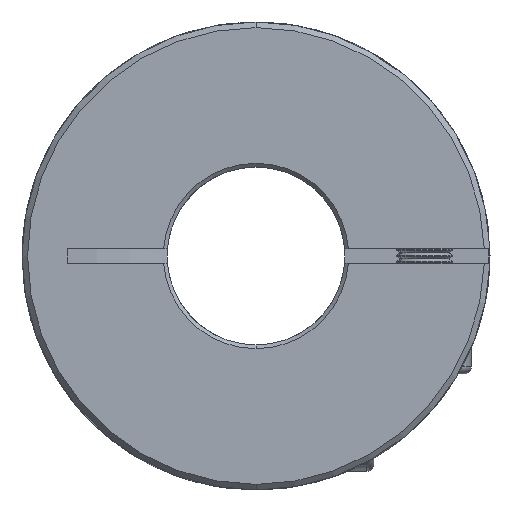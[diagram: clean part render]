
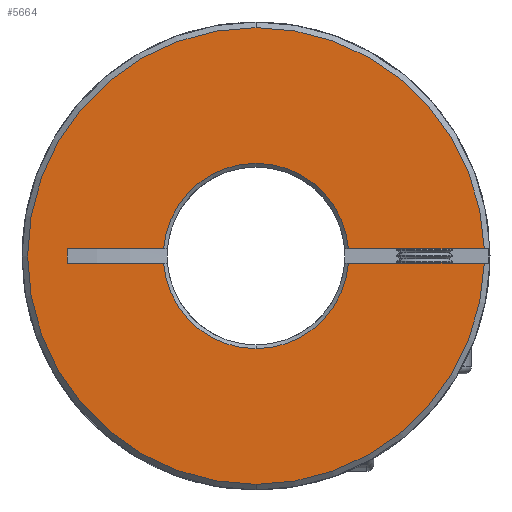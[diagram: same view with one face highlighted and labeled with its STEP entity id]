
A CAD part, front view. The second image highlights one B-rep face of the part: STEP entity #5664.
In plain terms, the highlighted planar face has unit normal (0, -1, 0).
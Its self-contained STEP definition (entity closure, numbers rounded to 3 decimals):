
#96 = AXIS2_PLACEMENT_3D ( 'NONE', #9291, #14341, #10436 ) ;
#364 = CARTESIAN_POINT ( 'NONE',  ( 0., 0., 0. ) ) ;
#377 = ORIENTED_EDGE ( 'NONE', *, *, #8718, .T. ) ;
#431 = VERTEX_POINT ( 'NONE', #3305 ) ;
#693 = CIRCLE ( 'NONE', #9411, 9.9 ) ;
#1004 = PLANE ( 'NONE',  #96 ) ;
#1112 = VECTOR ( 'NONE', #13986, 1000. ) ;
#1168 = LINE ( 'NONE', #10890, #11905 ) ;
#1511 = ORIENTED_EDGE ( 'NONE', *, *, #6736, .T. ) ;
#1673 = EDGE_LOOP ( 'NONE', ( #4040, #1838, #12985, #11024, #12945, #5753, #9346, #14477, #1511, #5851, #377 ) ) ;
#1838 = ORIENTED_EDGE ( 'NONE', *, *, #8153, .T. ) ;
#1932 = EDGE_CURVE ( 'NONE', #3063, #15605, #15755, .T. ) ;
#2215 = EDGE_CURVE ( 'NONE', #8219, #4109, #9160, .T. ) ;
#3063 = VERTEX_POINT ( 'NONE', #8149 ) ;
#3292 = VERTEX_POINT ( 'NONE', #16828 ) ;
#3305 = CARTESIAN_POINT ( 'NONE',  ( 0., 0., -9.9 ) ) ;
#3370 = CARTESIAN_POINT ( 'NONE',  ( 0., 0., -24.4 ) ) ;
#3385 = CIRCLE ( 'NONE', #6012, 24.4 ) ;
#3420 = CARTESIAN_POINT ( 'NONE',  ( -50., 0., 0.75 ) ) ;
#3637 = CARTESIAN_POINT ( 'NONE',  ( 0., 0., 0. ) ) ;
#3839 = DIRECTION ( 'NONE',  ( 0., 0., 1. ) ) ;
#4040 = ORIENTED_EDGE ( 'NONE', *, *, #2215, .F. ) ;
#4109 = VERTEX_POINT ( 'NONE', #15584 ) ;
#4224 = CARTESIAN_POINT ( 'NONE',  ( 0., 0., 0. ) ) ;
#4338 = CARTESIAN_POINT ( 'NONE',  ( 9.872, 0., -0.75 ) ) ;
#4392 = EDGE_CURVE ( 'NONE', #3292, #16297, #1168, .T. ) ;
#4528 = CARTESIAN_POINT ( 'NONE',  ( 9.872, 0., 0.75 ) ) ;
#4701 = VECTOR ( 'NONE', #10985, 1000. ) ;
#4753 = FACE_OUTER_BOUND ( 'NONE', #1673, .T. ) ;
#4842 = DIRECTION ( 'NONE',  ( 0., 0., 1. ) ) ;
#4915 = LINE ( 'NONE', #15452, #9171 ) ;
#4965 = VERTEX_POINT ( 'NONE', #4528 ) ;
#5154 = DIRECTION ( 'NONE',  ( 0., 0., 1. ) ) ;
#5514 = CARTESIAN_POINT ( 'NONE',  ( 0., 0., 0. ) ) ;
#5664 = ADVANCED_FACE ( 'NONE', ( #4753 ), #1004, .F. ) ;
#5745 = CARTESIAN_POINT ( 'NONE',  ( -9.872, 0., 0.75 ) ) ;
#5753 = ORIENTED_EDGE ( 'NONE', *, *, #1932, .T. ) ;
#5851 = ORIENTED_EDGE ( 'NONE', *, *, #8436, .T. ) ;
#5889 = VERTEX_POINT ( 'NONE', #8923 ) ;
#6012 = AXIS2_PLACEMENT_3D ( 'NONE', #11235, #11118, #7256 ) ;
#6014 = EDGE_CURVE ( 'NONE', #15605, #4965, #693, .T. ) ;
#6736 = EDGE_CURVE ( 'NONE', #16615, #5889, #9791, .T. ) ;
#7256 = DIRECTION ( 'NONE',  ( 0., 0., 1. ) ) ;
#8149 = CARTESIAN_POINT ( 'NONE',  ( -20.149, 0., 0.75 ) ) ;
#8153 = EDGE_CURVE ( 'NONE', #8219, #431, #8306, .T. ) ;
#8219 = VERTEX_POINT ( 'NONE', #4338 ) ;
#8306 = CIRCLE ( 'NONE', #9430, 9.9 ) ;
#8436 = EDGE_CURVE ( 'NONE', #5889, #12622, #13684, .T. ) ;
#8510 = CARTESIAN_POINT ( 'NONE',  ( 24.388, 0., 0.75 ) ) ;
#8718 = EDGE_CURVE ( 'NONE', #12622, #4109, #3385, .T. ) ;
#8923 = CARTESIAN_POINT ( 'NONE',  ( 0., 0., 24.4 ) ) ;
#9092 = CARTESIAN_POINT ( 'NONE',  ( -50., 0., 0.75 ) ) ;
#9094 = VECTOR ( 'NONE', #14594, 1000. ) ;
#9160 = LINE ( 'NONE', #12300, #4701 ) ;
#9171 = VECTOR ( 'NONE', #4842, 1000. ) ;
#9291 = CARTESIAN_POINT ( 'NONE',  ( -50., 0., 32.858 ) ) ;
#9341 = DIRECTION ( 'NONE',  ( 0., -1., 0. ) ) ;
#9346 = ORIENTED_EDGE ( 'NONE', *, *, #6014, .T. ) ;
#9394 = DIRECTION ( 'NONE',  ( 0., 0., 1. ) ) ;
#9411 = AXIS2_PLACEMENT_3D ( 'NONE', #3637, #11685, #5154 ) ;
#9430 = AXIS2_PLACEMENT_3D ( 'NONE', #4224, #16364, #10812 ) ;
#9532 = AXIS2_PLACEMENT_3D ( 'NONE', #364, #13822, #15297 ) ;
#9791 = CIRCLE ( 'NONE', #16223, 24.4 ) ;
#10436 = DIRECTION ( 'NONE',  ( 0., 0., 1. ) ) ;
#10812 = DIRECTION ( 'NONE',  ( 0., 0., 1. ) ) ;
#10890 = CARTESIAN_POINT ( 'NONE',  ( -50., 0., -0.75 ) ) ;
#10985 = DIRECTION ( 'NONE',  ( 1., 0., 0. ) ) ;
#11024 = ORIENTED_EDGE ( 'NONE', *, *, #4392, .F. ) ;
#11118 = DIRECTION ( 'NONE',  ( 0., -1., 0. ) ) ;
#11201 = AXIS2_PLACEMENT_3D ( 'NONE', #5514, #9341, #3839 ) ;
#11235 = CARTESIAN_POINT ( 'NONE',  ( 0., 0., 0. ) ) ;
#11685 = DIRECTION ( 'NONE',  ( 0., 1., 0. ) ) ;
#11905 = VECTOR ( 'NONE', #15270, 1000. ) ;
#12212 = CARTESIAN_POINT ( 'NONE',  ( -9.872, 0., -0.75 ) ) ;
#12300 = CARTESIAN_POINT ( 'NONE',  ( -50., 0., -0.75 ) ) ;
#12622 = VERTEX_POINT ( 'NONE', #3370 ) ;
#12852 = CIRCLE ( 'NONE', #9532, 9.9 ) ;
#12945 = ORIENTED_EDGE ( 'NONE', *, *, #14465, .T. ) ;
#12985 = ORIENTED_EDGE ( 'NONE', *, *, #15789, .T. ) ;
#13684 = CIRCLE ( 'NONE', #11201, 24.4 ) ;
#13822 = DIRECTION ( 'NONE',  ( 0., 1., 0. ) ) ;
#13986 = DIRECTION ( 'NONE',  ( 1., 0., 0. ) ) ;
#14146 = LINE ( 'NONE', #3420, #1112 ) ;
#14341 = DIRECTION ( 'NONE',  ( 0., 1., 0. ) ) ;
#14465 = EDGE_CURVE ( 'NONE', #3292, #3063, #4915, .T. ) ;
#14476 = EDGE_CURVE ( 'NONE', #4965, #16615, #14146, .T. ) ;
#14477 = ORIENTED_EDGE ( 'NONE', *, *, #14476, .T. ) ;
#14594 = DIRECTION ( 'NONE',  ( 1., 0., 0. ) ) ;
#14789 = DIRECTION ( 'NONE',  ( 0., -1., 0. ) ) ;
#15270 = DIRECTION ( 'NONE',  ( 1., 0., 0. ) ) ;
#15297 = DIRECTION ( 'NONE',  ( 0., 0., 1. ) ) ;
#15452 = CARTESIAN_POINT ( 'NONE',  ( -20.149, 0., -0.75 ) ) ;
#15584 = CARTESIAN_POINT ( 'NONE',  ( 24.388, 0., -0.75 ) ) ;
#15605 = VERTEX_POINT ( 'NONE', #5745 ) ;
#15755 = LINE ( 'NONE', #9092, #9094 ) ;
#15789 = EDGE_CURVE ( 'NONE', #431, #16297, #12852, .T. ) ;
#16223 = AXIS2_PLACEMENT_3D ( 'NONE', #17382, #14789, #9394 ) ;
#16297 = VERTEX_POINT ( 'NONE', #12212 ) ;
#16364 = DIRECTION ( 'NONE',  ( 0., 1., 0. ) ) ;
#16615 = VERTEX_POINT ( 'NONE', #8510 ) ;
#16828 = CARTESIAN_POINT ( 'NONE',  ( -20.149, 0., -0.75 ) ) ;
#17382 = CARTESIAN_POINT ( 'NONE',  ( 0., 0., 0. ) ) ;
